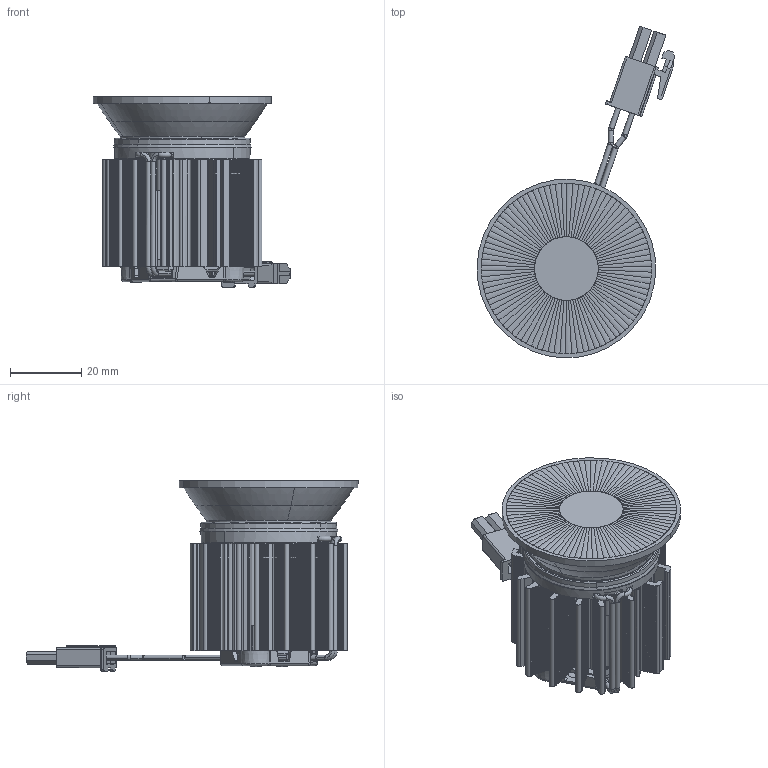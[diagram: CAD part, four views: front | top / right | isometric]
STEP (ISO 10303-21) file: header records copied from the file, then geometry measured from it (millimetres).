
FILE_DESCRIPTION(('Creo Elements/Direct Modeling STEP Export'),'2;1');
FILE_NAME('EVOLVE_7.3.stp','2023-08-21T10:35:03',(''),(''),'Creo Elements/Direct Modeling STEP processor for AP214 (Solid Model)','Creo Elements/Direct Modeling 20.0E 23-Apr-2019 (C) Parametric Technology GmbH','');
FILE_SCHEMA(('AUTOMOTIVE_DESIGN { 1 0 10303 214 1 1 1 1 }'));
Length unit declared in the file: millimetre
Products named in the file (49): HOLDER_12.5x12.5; lente; cavo.1.1; cavo.1.2; cavo_conn.1; cavo_conn.1.1; cavo_conn.1.2; cop_maschio.1.1; CUT-EXTRUDE1_1_.PRT; CUT-EXTRUDE1_2_.PRT; CUT-EXTRUDE1_3_.PRT; thermal-pad; CUT-EXTRUDE1_4_.PRT; V8_BXRE_BASE_ROUND_CENTER.PRT.1; vite_holder_a.1; CUT-EXTRUDE1_5_.PRT; V8_BXRE_PH.PRT; CUT-EXTRUDE1_6_.PRT; dissipatore_D45_H30; CUT-EXTRUDE1_7_.PRT; CUT-EXTRUDE1_8_.PRT; V8_BXRE_RD.PRT; vite_holder_b.1; ETICHETTA; V8_BXRE_SM.PRT; EVOLVE_7.3.stp
Assembly tree (48 placements, depth 3):
  EVOLVE_7.3.stp
    V8_BXRE_SM.PRT
      V8_BXRE_SM.PRT
    ETICHETTA
      ETICHETTA
    vite_holder_b.1
      vite_holder_b.1
    V8_BXRE_RD.PRT
      V8_BXRE_RD.PRT
    CUT-EXTRUDE1_8_.PRT
      CUT-EXTRUDE1_8_.PRT
    CUT-EXTRUDE1_7_.PRT
      CUT-EXTRUDE1_7_.PRT
    dissipatore_D45_H30
      dissipatore_D45_H30
    CUT-EXTRUDE1_6_.PRT
      CUT-EXTRUDE1_6_.PRT
    V8_BXRE_PH.PRT
      V8_BXRE_PH.PRT
    CUT-EXTRUDE1_5_.PRT
      CUT-EXTRUDE1_5_.PRT
    vite_holder_a.1
      vite_holder_a.1
    V8_BXRE_BASE_ROUND_CENTER.PRT.1
      V8_BXRE_BASE_ROUND_CENTER.PRT.1
    CUT-EXTRUDE1_4_.PRT
      CUT-EXTRUDE1_4_.PRT
    thermal-pad
    CUT-EXTRUDE1_3_.PRT
      CUT-EXTRUDE1_3_.PRT
    CUT-EXTRUDE1_2_.PRT
      CUT-EXTRUDE1_2_.PRT
    CUT-EXTRUDE1_1_.PRT
      CUT-EXTRUDE1_1_.PRT
    cop_maschio.1.1
      cop_maschio.1.1
    cavo_conn.1.2
      cavo_conn.1.2
    cavo_conn.1.1
      cavo_conn.1.1
    cavo_conn.1
      cavo_conn.1
    cavo.1.2
      cavo.1.2
    cavo.1.1
      cavo.1.1
    lente
    HOLDER_12.5x12.5
      HOLDER_12.5x12.5
Bounding box: 55.33 x 92.88 x 53.27 mm (x, y, z)
Volume: 39000 mm3; surface area: 35182.4 mm2
Topology: 23 solids, 23 shells, 3346 faces, 9322 edges, 5944 vertices
Faces by surface type: plane 1720, cylinder 894, bspline 352, torus 164, cone 158, sphere 58
Entity records: 129152 total; most frequent: CARTESIAN_POINT 46962, ORIENTED_EDGE 18546, DIRECTION 14306, EDGE_CURVE 9273, VERTEX_POINT 5944, VECTOR 5058, LINE 5058, AXIS2_PLACEMENT_3D 4624
